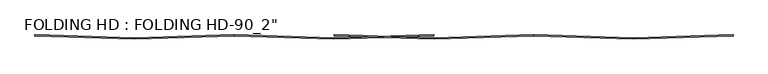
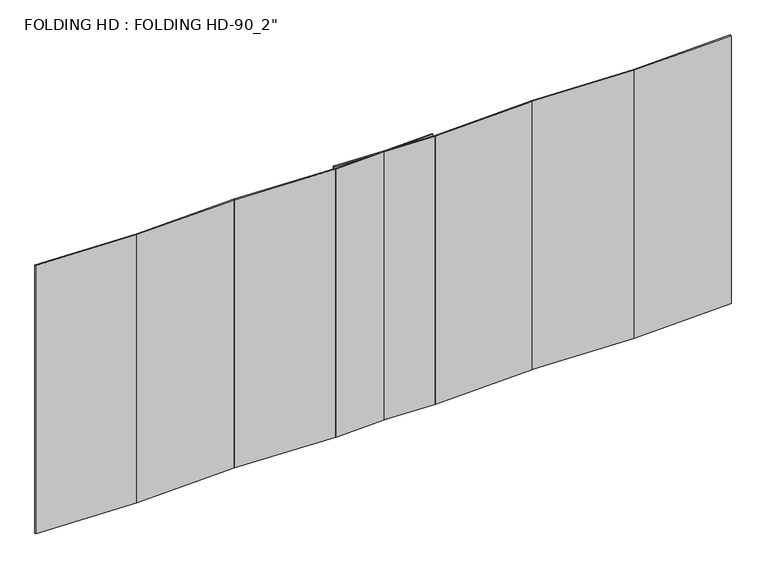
"""IFC4 building model written with IfcOpenShell, lengths in millimetres: plate geometry."""

import ifcopenshell
import ifcopenshell.guid

model = None  # the IFC model being written
_history = None  # IfcOwnerHistory: only IFC2X3 demands one
_inside = {}  # id of a spatial element -> (the spatial element, [elements in it])
_under = {}  # id of a project, library or spatial element -> (it, [spatial elements below it])
_declared = {}  # id of a project -> (the project, [libraries it declares])
_typed = {}  # id of a type object -> (the type object, [elements of that type])
_made_of = {}  # id of a material, layer set ... -> (it, [elements and type objects made of it])


def new_model(schema):
    """Start an empty IFC model of exactly this schema.

    Asked for "IFC4X3", IfcOpenShell would pick the latest addendum, in which some entities
    have other attributes; the version numbers below select the first issue.
    IFC2X3 requires an IfcOwnerHistory on every rooted entity: one is made here for all.
    """
    global model, _history
    if schema == "IFC4X3":
        model = ifcopenshell.file(schema_version=(4, 3, 0, 0))
    else:
        model = ifcopenshell.file(schema=schema)
    _inside.clear()
    _under.clear()
    _declared.clear()
    _typed.clear()
    _made_of.clear()
    _history = None
    if model.schema == "IFC2X3":
        org = make("IfcOrganization", Name="unknown")
        user = make(
            "IfcPersonAndOrganization",
            ThePerson=make("IfcPerson", FamilyName="unknown"),
            TheOrganization=org,
        )
        app = make(
            "IfcApplication",
            ApplicationDeveloper=org,
            Version="unknown",
            ApplicationFullName="unknown",
            ApplicationIdentifier="unknown",
        )
        _history = make(
            "IfcOwnerHistory",
            OwningUser=user,
            OwningApplication=app,
            ChangeAction="ADDED",
            CreationDate=0,
        )
    return model


def make(cls, **values):
    """One entity of the class cls with the attributes given. An attribute that is None is left unset."""
    return model.create_entity(
        cls, **{name: value for name, value in values.items() if value is not None}
    )


def rooted(cls, **values):
    """An entity with a GlobalId (a new one), such as an element, a storey or a relation."""
    return make(cls, GlobalId=ifcopenshell.guid.new(), OwnerHistory=_history, **values)


def si_unit(unit_type, name, prefix=None):
    """IfcSIUnit, for example si_unit("LENGTHUNIT", "METRE", prefix="MILLI")."""
    return make("IfcSIUnit", UnitType=unit_type, Prefix=prefix, Name=name)


def assignment(units):
    """IfcUnitAssignment: the units of a project."""
    return None if units is None else make("IfcUnitAssignment", Units=units)


def point(xyz):
    """IfcCartesianPoint."""
    return None if xyz is None else make("IfcCartesianPoint", Coordinates=xyz)


def direction(xyz):
    """IfcDirection."""
    return None if xyz is None else make("IfcDirection", DirectionRatios=xyz)


def frame(location, z_axis=None, x_axis=None):
    """IfcAxis2Placement3D, a coordinate frame: its origin and axes. An axis left out is left unset."""
    return make(
        "IfcAxis2Placement3D",
        Location=point(location),
        Axis=direction(z_axis),
        RefDirection=direction(x_axis),
    )


def origin():
    """The frame at (0, 0, 0) with its axes left unset."""
    return frame((0.0, 0.0, 0.0))


def origin_with_axes():
    """The frame at (0, 0, 0) with the z axis (0, 0, 1) and the x axis (1, 0, 0) written out."""
    return frame((0.0, 0.0, 0.0), z_axis=(0.0, 0.0, 1.0), x_axis=(1.0, 0.0, 0.0))


def place(relative_to, where):
    """IfcLocalPlacement: puts the frame where relative to a parent placement (None: the world)."""
    return make(
        "IfcLocalPlacement", PlacementRelTo=relative_to, RelativePlacement=where
    )


def context(
    kind, dimensions, precision=None, world=None, true_north=None, identifier=None
):
    """IfcGeometricRepresentationContext, for example the 3D "Model" context."""
    return make(
        "IfcGeometricRepresentationContext",
        ContextIdentifier=identifier,
        ContextType=kind,
        CoordinateSpaceDimension=dimensions,
        Precision=precision,
        WorldCoordinateSystem=world,
        TrueNorth=true_north,
    )


def project(units=None, contexts=None):
    """IfcProject with its units and contexts."""
    return rooted(
        "IfcProject",
        Name="project",
        RepresentationContexts=contexts,
        UnitsInContext=assignment(units),
    )


def spatial(cls, under=None, at=None, **own):
    """A site, building, storey or space (cls), placed at a placement, below another one or the project."""
    s = rooted(cls, ObjectPlacement=at, **own)
    if under is not None:
        _under.setdefault(under.id(), (under, []))[1].append(s)
    return s


def polyline(points):
    """IfcPolyline through the points."""
    return make("IfcPolyline", Points=[point(p) for p in points])


def outline(outer, holes=None, kind="AREA"):
    """IfcArbitraryClosedProfileDef: a profile drawn as a closed curve; with holes, ...WithVoids."""
    if holes is None:
        return make("IfcArbitraryClosedProfileDef", ProfileType=kind, OuterCurve=outer)
    return make(
        "IfcArbitraryProfileDefWithVoids",
        ProfileType=kind,
        OuterCurve=outer,
        InnerCurves=holes,
    )


def extrude(swept, where, along, depth):
    """IfcExtrudedAreaSolid: the profile swept, set in the frame where, extruded along a direction by depth."""
    return make(
        "IfcExtrudedAreaSolid",
        SweptArea=swept,
        Position=where,
        ExtrudedDirection=direction(along),
        Depth=depth,
    )


def shape(context_of_items, identifier, shape_type, items):
    """IfcShapeRepresentation: the items that make up one representation, for example the "Body"."""
    return make(
        "IfcShapeRepresentation",
        ContextOfItems=context_of_items,
        RepresentationIdentifier=identifier,
        RepresentationType=shape_type,
        Items=items,
    )


def source(mapping_origin, context_of_items, identifier, shape_type, items):
    """IfcRepresentationMap: a shape defined once, which mapped items show again and again."""
    return make(
        "IfcRepresentationMap",
        MappingOrigin=mapping_origin,
        MappedRepresentation=shape(context_of_items, identifier, shape_type, items),
    )


def transform(
    local_origin,
    x_axis=None,
    y_axis=None,
    z_axis=None,
    scale=None,
    scale2=None,
    scale3=None,
    uniform=True,
):
    """IfcCartesianTransformationOperator3D, or its non-uniform kind. x_axis, y_axis, z_axis: its Axis1, 2, 3."""
    if uniform:
        return make(
            "IfcCartesianTransformationOperator3D",
            Axis1=direction(x_axis),
            Axis2=direction(y_axis),
            LocalOrigin=point(local_origin),
            Scale=scale,
            Axis3=direction(z_axis),
        )
    return make(
        "IfcCartesianTransformationOperator3DnonUniform",
        Axis1=direction(x_axis),
        Axis2=direction(y_axis),
        LocalOrigin=point(local_origin),
        Scale=scale,
        Axis3=direction(z_axis),
        Scale2=scale2,
        Scale3=scale3,
    )


def mapped(mapping_source, mapping_target):
    """IfcMappedItem: shows the shape of a source again, moved by a transform."""
    return make(
        "IfcMappedItem", MappingSource=mapping_source, MappingTarget=mapping_target
    )


def made_of(thing, what):
    """Note that an element or type object is made of a material, layer set ...; save() writes the relation."""
    if what is not None:
        _made_of.setdefault(what.id(), (what, []))[1].append(thing)
    return thing


def element(
    cls,
    number,
    at=None,
    inside=None,
    cuts=None,
    type_object=None,
    material=None,
    context=None,
    identifier="Body",
    shape_type=None,
    held_by="IfcProductDefinitionShape",
    body=None,
    shapes=None,
    **own,
):
    """One element of the class cls, such as IfcWall. Its Tag is "e" and its number.

    at: its placement. inside: the storey or other place that contains it. cuts: it is an
    opening in that element (IfcRelVoidsElement). A single representation is given by context,
    identifier, shape_type and body (its items); several are given by shapes. held_by: the class
    of the entity that holds the representations. save() writes the other relations.
    """
    e = rooted(cls, Tag="e%d" % number, ObjectPlacement=at, **own)
    if body is not None:
        shapes = [shape(context, identifier, shape_type, body)]
    if shapes is not None:
        e.Representation = make(held_by, Representations=shapes)
    if inside is not None:
        _inside.setdefault(inside.id(), (inside, []))[1].append(e)
    if cuts is not None:
        rooted(
            "IfcRelVoidsElement", RelatingBuildingElement=cuts, RelatedOpeningElement=e
        )
    if type_object is not None:
        _typed.setdefault(type_object.id(), (type_object, []))[1].append(e)
    return made_of(e, material)


def aggregate(whole, parts):
    """IfcRelAggregates: a whole, such as a stair, and the parts it consists of."""
    return rooted("IfcRelAggregates", RelatingObject=whole, RelatedObjects=parts)


def save(model, path):
    """Write the relations noted so far, then the file.

    IfcRelAggregates (storeys below a building ...), IfcRelContainedInSpatialStructure (elements
    in a storey), IfcRelDefinesByType, IfcRelAssociatesMaterial and IfcRelDeclares: one each for
    every whole, place, type object, material and project.
    """
    for whole, parts in _under.values():
        aggregate(whole, parts)
    for where, things in _inside.values():
        rooted(
            "IfcRelContainedInSpatialStructure",
            RelatedElements=things,
            RelatingStructure=where,
        )
    for kind, things in _typed.values():
        rooted("IfcRelDefinesByType", RelatedObjects=things, RelatingType=kind)
    for what, things in _made_of.values():
        rooted("IfcRelAssociatesMaterial", RelatedObjects=things, RelatingMaterial=what)
    for by, libraries in _declared.values():
        rooted("IfcRelDeclares", RelatingContext=by, RelatedDefinitions=libraries)
    model.write(path)


def plate_14ea687d(model_context):
    return source(origin(), model_context, "Body", "SweptSolid", [
        extrude(outline(polyline([(2250.5482557, -31.4095471), (2250.1992607, -41.4034553), (1350.7475164, -9.9939083), (1351.0965114, 0.0), (2250.5482557, -31.4095471)])), origin_with_axes(), (0.0, 0.0, 1.0), 2570.0),
        extrude(outline(polyline([(2250.5482557, -31.409547), (3150.0, 0.0), (3150.348995, -9.9939083), (2250.8972506, -41.4034553), (2250.5482557, -31.409547)])), origin_with_axes(), (0.0, 0.0, 1.0), 2570.0),
        extrude(outline(polyline([(451.644767, -31.409547), (1351.0965114, 0.0), (1351.4455063, -9.9939083), (451.993762, -41.4034553), (451.644767, -31.409547)])), origin_with_axes(), (0.0, 0.0, 1.0), 2570.0),
        extrude(outline(polyline([(451.644767, -31.409547), (451.2957721, -41.4034553), (-448.1559722, -9.9939083), (-447.8069773, 0.0), (451.644767, -31.409547)])), origin_with_axes(), (0.0, 0.0, 1.0), 2570.0),
        extrude(outline(polyline([(-451.644767, -31.409547), (-451.993762, -41.4034553), (-1351.4455063, -9.9939083), (-1351.0965114, 0.0), (-451.644767, -31.409547)])), origin_with_axes(), (0.0, 0.0, 1.0), 2570.0),
        extrude(outline(polyline([(-451.644767, -31.409547), (447.8069773, 0.0), (448.1559722, -9.9939083), (-451.2957721, -41.4034553), (-451.644767, -31.409547)])), origin_with_axes(), (0.0, 0.0, 1.0), 2570.0),
        extrude(outline(polyline([(-2250.5482557, -31.409547), (-1351.0965114, 0.0), (-1350.7475164, -9.9939083), (-2250.1992607, -41.4034553), (-2250.5482557, -31.409547)])), origin_with_axes(), (0.0, 0.0, 1.0), 2570.0),
        extrude(outline(polyline([(-2250.5482557, -31.409547), (-2250.8972506, -41.4034553), (-3150.348995, -9.9939083), (-3150.0, 0.0), (-2250.5482557, -31.409547)])), origin_with_axes(), (0.0, 0.0, 1.0), 2570.0),
    ])


if __name__ == "__main__":
    model = new_model("IFC4")
    model_context = context("Model", 3, world=origin())
    ifc_project = project(units=[si_unit("LENGTHUNIT", "METRE", prefix="MILLI")], contexts=[model_context])
    site = spatial("IfcSite", under=ifc_project)
    building = spatial("IfcBuilding", under=site)
    placement = place(None, origin())
    plate_shape = plate_14ea687d(model_context)
    element("IfcPlate", 1, ObjectType="FOLDING HD : FOLDING HD-90_2\"", at=placement, inside=building, context=model_context, shape_type="MappedRepresentation", body=[
        mapped(plate_shape, transform((0.0, 0.0, 0.0), x_axis=(1.0, 0.0, 0.0), y_axis=(0.0, 1.0, 0.0), z_axis=(0.0, 0.0, 1.0))),
    ])
    save(model, "model.ifc")
